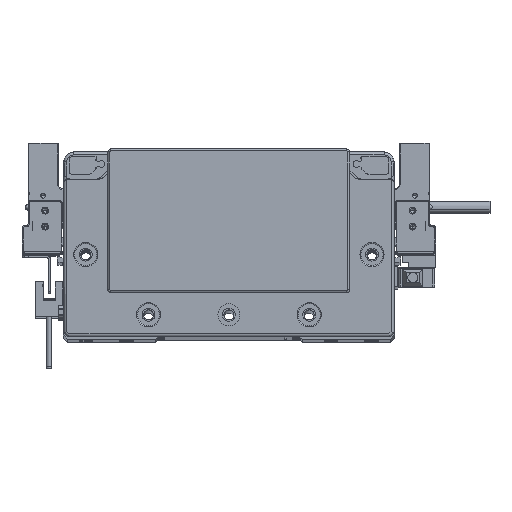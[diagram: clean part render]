
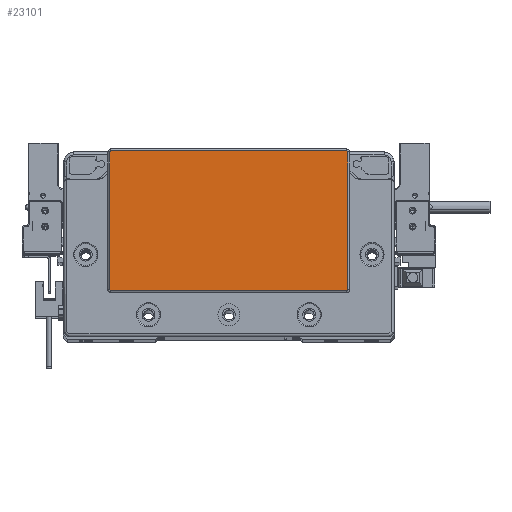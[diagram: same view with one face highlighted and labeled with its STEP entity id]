
A CAD part, top view. The second image highlights one B-rep face of the part: STEP entity #23101.
In plain terms, the highlighted planar face has unit normal (0, 0, 1) as drawn and (0, 0, -1) by its records, which use the part's own axes.
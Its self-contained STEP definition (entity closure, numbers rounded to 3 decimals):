
#1131 = CIRCLE ( 'NONE', #75538, 0.5 ) ;
#1935 = CARTESIAN_POINT ( 'NONE',  ( -58.75, 45.8, -2. ) ) ;
#4731 = DIRECTION ( 'NONE',  ( 0., 0., -1. ) ) ;
#5300 = ORIENTED_EDGE ( 'NONE', *, *, #33955, .T. ) ;
#6981 = AXIS2_PLACEMENT_3D ( 'NONE', #61883, #91448, #29791 ) ;
#13899 = DIRECTION ( 'NONE',  ( 0., 0., -1. ) ) ;
#14858 = CARTESIAN_POINT ( 'NONE',  ( -59.25, 45.3, -2. ) ) ;
#15367 = CARTESIAN_POINT ( 'NONE',  ( -59.25, 45.3, -2. ) ) ;
#17237 = LINE ( 'NONE', #57122, #19143 ) ;
#19143 = VECTOR ( 'NONE', #95482, 1000. ) ;
#20750 = VERTEX_POINT ( 'NONE', #78289 ) ;
#21419 = ORIENTED_EDGE ( 'NONE', *, *, #74878, .T. ) ;
#21570 = CARTESIAN_POINT ( 'NONE',  ( 58.75, 45.3, -2. ) ) ;
#23101 = ADVANCED_FACE ( 'NONE', ( #43806 ), #68121, .T. ) ;
#28319 = EDGE_CURVE ( 'NONE', #93284, #58260, #90600, .T. ) ;
#28974 = DIRECTION ( 'NONE',  ( 0., -1., 0. ) ) ;
#29791 = DIRECTION ( 'NONE',  ( -1., 0., 0. ) ) ;
#29998 = CARTESIAN_POINT ( 'NONE',  ( 59.25, -23.3, -2. ) ) ;
#31262 = ORIENTED_EDGE ( 'NONE', *, *, #49553, .T. ) ;
#33955 = EDGE_CURVE ( 'NONE', #20750, #53279, #41183, .T. ) ;
#35255 = EDGE_LOOP ( 'NONE', ( #72047, #51894, #59376, #98454, #31262, #21419, #94262, #5300 ) ) ;
#37615 = EDGE_CURVE ( 'NONE', #58260, #96966, #99454, .T. ) ;
#38262 = DIRECTION ( 'NONE',  ( -1., 0., 0. ) ) ;
#40667 = EDGE_CURVE ( 'NONE', #90134, #20750, #17237, .T. ) ;
#41183 = CIRCLE ( 'NONE', #52676, 0.5 ) ;
#43806 = FACE_OUTER_BOUND ( 'NONE', #35255, .T. ) ;
#44447 = VECTOR ( 'NONE', #28974, 1000. ) ;
#45901 = DIRECTION ( 'NONE',  ( 0., 0., -1. ) ) ;
#46596 = EDGE_CURVE ( 'NONE', #53279, #93284, #84403, .T. ) ;
#48007 = VECTOR ( 'NONE', #55248, 1000. ) ;
#49553 = EDGE_CURVE ( 'NONE', #52336, #68914, #62508, .T. ) ;
#50156 = DIRECTION ( 'NONE',  ( 0., 0., -1. ) ) ;
#51611 = EDGE_CURVE ( 'NONE', #96966, #52336, #1131, .T. ) ;
#51894 = ORIENTED_EDGE ( 'NONE', *, *, #28319, .T. ) ;
#52336 = VERTEX_POINT ( 'NONE', #53123 ) ;
#52676 = AXIS2_PLACEMENT_3D ( 'NONE', #21570, #45901, #55203 ) ;
#53123 = CARTESIAN_POINT ( 'NONE',  ( -59.25, -23.3, -2. ) ) ;
#53279 = VERTEX_POINT ( 'NONE', #95204 ) ;
#53283 = CARTESIAN_POINT ( 'NONE',  ( -58.75, 45.3, -2. ) ) ;
#55203 = DIRECTION ( 'NONE',  ( -1., 0., 0. ) ) ;
#55248 = DIRECTION ( 'NONE',  ( 0., 1., 0. ) ) ;
#57122 = CARTESIAN_POINT ( 'NONE',  ( 58.75, 45.8, -2. ) ) ;
#58110 = CARTESIAN_POINT ( 'NONE',  ( -58.75, -23.3, -2. ) ) ;
#58260 = VERTEX_POINT ( 'NONE', #59526 ) ;
#59376 = ORIENTED_EDGE ( 'NONE', *, *, #37615, .T. ) ;
#59526 = CARTESIAN_POINT ( 'NONE',  ( 58.75, -23.8, -2. ) ) ;
#61883 = CARTESIAN_POINT ( 'NONE',  ( 0., 0., -2. ) ) ;
#62508 = LINE ( 'NONE', #15367, #48007 ) ;
#68121 = PLANE ( 'NONE',  #6981 ) ;
#68914 = VERTEX_POINT ( 'NONE', #14858 ) ;
#71398 = CARTESIAN_POINT ( 'NONE',  ( 58.75, -23.3, -2. ) ) ;
#72047 = ORIENTED_EDGE ( 'NONE', *, *, #46596, .T. ) ;
#74441 = CARTESIAN_POINT ( 'NONE',  ( -58.75, -23.8, -2. ) ) ;
#74457 = CIRCLE ( 'NONE', #94261, 0.5 ) ;
#74878 = EDGE_CURVE ( 'NONE', #68914, #90134, #74457, .T. ) ;
#75538 = AXIS2_PLACEMENT_3D ( 'NONE', #58110, #4731, #81923 ) ;
#78289 = CARTESIAN_POINT ( 'NONE',  ( 58.75, 45.8, -2. ) ) ;
#79603 = CARTESIAN_POINT ( 'NONE',  ( 59.25, -23.3, -2. ) ) ;
#81923 = DIRECTION ( 'NONE',  ( -1., 0., 0. ) ) ;
#84403 = LINE ( 'NONE', #29998, #44447 ) ;
#86177 = VECTOR ( 'NONE', #96549, 1000. ) ;
#90134 = VERTEX_POINT ( 'NONE', #1935 ) ;
#90600 = CIRCLE ( 'NONE', #98900, 0.5 ) ;
#91448 = DIRECTION ( 'NONE',  ( 0., 0., -1. ) ) ;
#92131 = CARTESIAN_POINT ( 'NONE',  ( -58.75, -23.8, -2. ) ) ;
#93284 = VERTEX_POINT ( 'NONE', #79603 ) ;
#94261 = AXIS2_PLACEMENT_3D ( 'NONE', #53283, #13899, #38262 ) ;
#94262 = ORIENTED_EDGE ( 'NONE', *, *, #40667, .T. ) ;
#95204 = CARTESIAN_POINT ( 'NONE',  ( 59.25, 45.3, -2. ) ) ;
#95229 = DIRECTION ( 'NONE',  ( -1., 0., 0. ) ) ;
#95482 = DIRECTION ( 'NONE',  ( 1., 0., 0. ) ) ;
#96549 = DIRECTION ( 'NONE',  ( -1., 0., 0. ) ) ;
#96966 = VERTEX_POINT ( 'NONE', #74441 ) ;
#98454 = ORIENTED_EDGE ( 'NONE', *, *, #51611, .T. ) ;
#98900 = AXIS2_PLACEMENT_3D ( 'NONE', #71398, #50156, #95229 ) ;
#99454 = LINE ( 'NONE', #92131, #86177 ) ;
